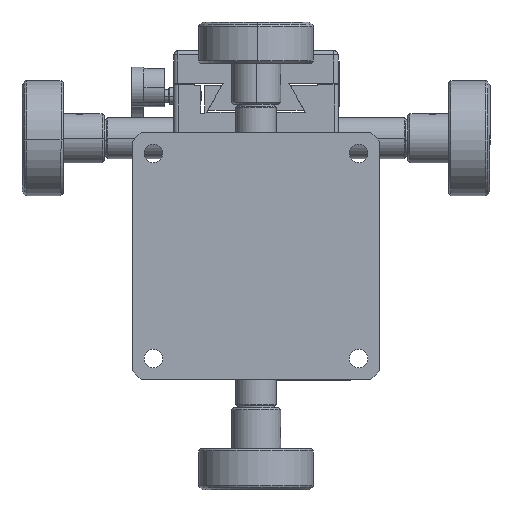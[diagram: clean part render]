
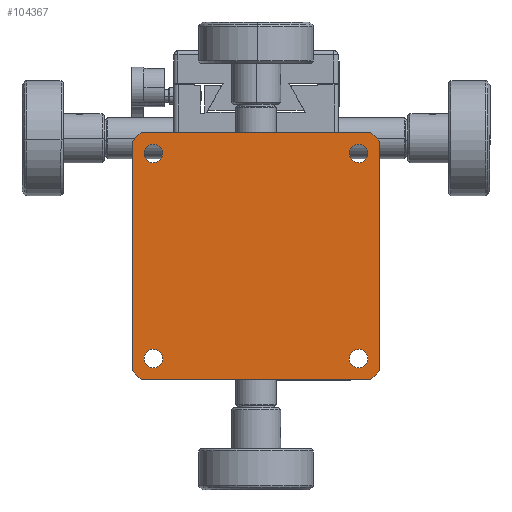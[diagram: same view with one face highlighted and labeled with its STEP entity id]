
A CAD part, front view. The second image highlights one B-rep face of the part: STEP entity #104367.
In plain terms, the highlighted planar face has unit normal (0, -1, 0).
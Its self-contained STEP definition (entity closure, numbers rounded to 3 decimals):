
#163 = DIRECTION ( 'NONE',  ( 0., 1., 0. ) ) ;
#919 = AXIS2_PLACEMENT_3D ( 'NONE', #51233, #163, #59906 ) ;
#935 = ORIENTED_EDGE ( 'NONE', *, *, #37879, .T. ) ;
#2135 = LINE ( 'NONE', #97273, #90288 ) ;
#3008 = DIRECTION ( 'NONE',  ( 0.707, 0., 0.707 ) ) ;
#3532 = CARTESIAN_POINT ( 'NONE',  ( 29., 0., -29. ) ) ;
#4208 = EDGE_CURVE ( 'NONE', #67962, #74689, #52172, .T. ) ;
#5631 = DIRECTION ( 'NONE',  ( -0.707, 0., 0.707 ) ) ;
#5916 = AXIS2_PLACEMENT_3D ( 'NONE', #42876, #102608, #51459 ) ;
#6997 = AXIS2_PLACEMENT_3D ( 'NONE', #108168, #108041, #107957 ) ;
#7044 = VECTOR ( 'NONE', #62277, 1000. ) ;
#7540 = CARTESIAN_POINT ( 'NONE',  ( -29., 0., 29. ) ) ;
#7647 = EDGE_LOOP ( 'NONE', ( #15284, #935, #34396, #81314, #90445, #25109, #71165, #50286 ) ) ;
#9665 = FACE_BOUND ( 'NONE', #95408, .T. ) ;
#10788 = CARTESIAN_POINT ( 'NONE',  ( -27.25, 0., 25. ) ) ;
#11664 = EDGE_CURVE ( 'NONE', #61776, #20361, #86517, .T. ) ;
#12185 = DIRECTION ( 'NONE',  ( -1., 0., 0. ) ) ;
#15284 = ORIENTED_EDGE ( 'NONE', *, *, #101529, .F. ) ;
#17087 = VERTEX_POINT ( 'NONE', #47851 ) ;
#19409 = EDGE_CURVE ( 'NONE', #27976, #88948, #96890, .T. ) ;
#19617 = VECTOR ( 'NONE', #5631, 1000. ) ;
#20280 = DIRECTION ( 'NONE',  ( 0., -1., 0. ) ) ;
#20361 = VERTEX_POINT ( 'NONE', #110678 ) ;
#22716 = ORIENTED_EDGE ( 'NONE', *, *, #104001, .T. ) ;
#23427 = LINE ( 'NONE', #106669, #88951 ) ;
#24159 = CIRCLE ( 'NONE', #26891, 2.25 ) ;
#24426 = EDGE_CURVE ( 'NONE', #17087, #33927, #92477, .T. ) ;
#25109 = ORIENTED_EDGE ( 'NONE', *, *, #27094, .T. ) ;
#25732 = CARTESIAN_POINT ( 'NONE',  ( -59., 0., 1. ) ) ;
#25953 = ORIENTED_EDGE ( 'NONE', *, *, #4208, .T. ) ;
#26619 = CARTESIAN_POINT ( 'NONE',  ( 25., 0., -25. ) ) ;
#26891 = AXIS2_PLACEMENT_3D ( 'NONE', #26619, #86351, #35225 ) ;
#27001 = VERTEX_POINT ( 'NONE', #31678 ) ;
#27094 = EDGE_CURVE ( 'NONE', #72090, #33927, #57544, .T. ) ;
#27976 = VERTEX_POINT ( 'NONE', #85954 ) ;
#29728 = FACE_OUTER_BOUND ( 'NONE', #7647, .T. ) ;
#30537 = CARTESIAN_POINT ( 'NONE',  ( -28., 0., 30. ) ) ;
#30581 = EDGE_CURVE ( 'NONE', #72090, #27001, #2135, .T. ) ;
#31678 = CARTESIAN_POINT ( 'NONE',  ( -28., 0., -30. ) ) ;
#31944 = VERTEX_POINT ( 'NONE', #65610 ) ;
#32102 = EDGE_CURVE ( 'NONE', #106396, #82262, #54175, .T. ) ;
#32618 = AXIS2_PLACEMENT_3D ( 'NONE', #88274, #37166, #96852 ) ;
#32949 = LINE ( 'NONE', #25732, #75673 ) ;
#33927 = VERTEX_POINT ( 'NONE', #69773 ) ;
#34396 = ORIENTED_EDGE ( 'NONE', *, *, #19409, .F. ) ;
#35179 = CARTESIAN_POINT ( 'NONE',  ( 28., 0., -30. ) ) ;
#35225 = DIRECTION ( 'NONE',  ( 1., 0., 0. ) ) ;
#36597 = CARTESIAN_POINT ( 'NONE',  ( 22.75, 0., -25. ) ) ;
#37166 = DIRECTION ( 'NONE',  ( 0., 1., 0. ) ) ;
#37879 = EDGE_CURVE ( 'NONE', #96157, #88948, #69248, .T. ) ;
#38718 = DIRECTION ( 'NONE',  ( 1., 0., 0. ) ) ;
#38731 = DIRECTION ( 'NONE',  ( 0., 1., 0. ) ) ;
#42876 = CARTESIAN_POINT ( 'NONE',  ( 25., 0., 25. ) ) ;
#46464 = CARTESIAN_POINT ( 'NONE',  ( -27.25, 0., -25. ) ) ;
#47851 = CARTESIAN_POINT ( 'NONE',  ( 30., 0., 28. ) ) ;
#48874 = VERTEX_POINT ( 'NONE', #36597 ) ;
#49074 = CARTESIAN_POINT ( 'NONE',  ( -25., 0., -25. ) ) ;
#49192 = VECTOR ( 'NONE', #59078, 1000. ) ;
#49646 = EDGE_CURVE ( 'NONE', #48874, #71609, #24159, .T. ) ;
#50286 = ORIENTED_EDGE ( 'NONE', *, *, #57624, .T. ) ;
#51233 = CARTESIAN_POINT ( 'NONE',  ( 25., 0., 25. ) ) ;
#51298 = EDGE_CURVE ( 'NONE', #20361, #61776, #78857, .T. ) ;
#51340 = CARTESIAN_POINT ( 'NONE',  ( 27.25, 0., -25. ) ) ;
#51459 = DIRECTION ( 'NONE',  ( 1., 0., 0. ) ) ;
#52172 = CIRCLE ( 'NONE', #58980, 2.25 ) ;
#52362 = FACE_BOUND ( 'NONE', #68663, .T. ) ;
#52791 = CARTESIAN_POINT ( 'NONE',  ( 27.25, 0., 25. ) ) ;
#53327 = EDGE_LOOP ( 'NONE', ( #22716, #91110 ) ) ;
#54175 = CIRCLE ( 'NONE', #919, 2.25 ) ;
#54286 = CARTESIAN_POINT ( 'NONE',  ( -30., 0., 30. ) ) ;
#55131 = FACE_BOUND ( 'NONE', #77727, .T. ) ;
#55680 = CARTESIAN_POINT ( 'NONE',  ( -30., 0., 30. ) ) ;
#57544 = LINE ( 'NONE', #3532, #77491 ) ;
#57624 = EDGE_CURVE ( 'NONE', #17087, #31944, #87752, .T. ) ;
#57684 = DIRECTION ( 'NONE',  ( 1., 0., 0. ) ) ;
#58529 = AXIS2_PLACEMENT_3D ( 'NONE', #49074, #108764, #57684 ) ;
#58740 = ORIENTED_EDGE ( 'NONE', *, *, #100068, .T. ) ;
#58980 = AXIS2_PLACEMENT_3D ( 'NONE', #86092, #87932, #88184 ) ;
#59078 = DIRECTION ( 'NONE',  ( -0.707, 0., -0.707 ) ) ;
#59577 = EDGE_CURVE ( 'NONE', #74689, #67962, #70272, .T. ) ;
#59906 = DIRECTION ( 'NONE',  ( 1., 0., 0. ) ) ;
#61152 = ORIENTED_EDGE ( 'NONE', *, *, #59577, .T. ) ;
#61776 = VERTEX_POINT ( 'NONE', #46464 ) ;
#62277 = DIRECTION ( 'NONE',  ( 0., 0., -1. ) ) ;
#62803 = CARTESIAN_POINT ( 'NONE',  ( 30., 0., 30. ) ) ;
#65610 = CARTESIAN_POINT ( 'NONE',  ( 28., 0., 30. ) ) ;
#67962 = VERTEX_POINT ( 'NONE', #10788 ) ;
#68202 = DIRECTION ( 'NONE',  ( 0., 0., 1. ) ) ;
#68663 = EDGE_LOOP ( 'NONE', ( #58740, #81925 ) ) ;
#69248 = LINE ( 'NONE', #7540, #49192 ) ;
#69773 = CARTESIAN_POINT ( 'NONE',  ( 30., 0., -28. ) ) ;
#70272 = CIRCLE ( 'NONE', #32618, 2.25 ) ;
#71165 = ORIENTED_EDGE ( 'NONE', *, *, #24426, .F. ) ;
#71497 = PLANE ( 'NONE',  #110469 ) ;
#71609 = VERTEX_POINT ( 'NONE', #51340 ) ;
#72090 = VERTEX_POINT ( 'NONE', #35179 ) ;
#72186 = CARTESIAN_POINT ( 'NONE',  ( -22.75, 0., 25. ) ) ;
#72374 = EDGE_CURVE ( 'NONE', #27976, #27001, #32949, .T. ) ;
#72603 = AXIS2_PLACEMENT_3D ( 'NONE', #89884, #38731, #98456 ) ;
#74689 = VERTEX_POINT ( 'NONE', #72186 ) ;
#75673 = VECTOR ( 'NONE', #94062, 1000. ) ;
#76484 = CIRCLE ( 'NONE', #72603, 2.25 ) ;
#77491 = VECTOR ( 'NONE', #3008, 1000. ) ;
#77727 = EDGE_LOOP ( 'NONE', ( #61152, #25953 ) ) ;
#78857 = CIRCLE ( 'NONE', #58529, 2.25 ) ;
#80055 = DIRECTION ( 'NONE',  ( -1., 0., 0. ) ) ;
#81314 = ORIENTED_EDGE ( 'NONE', *, *, #72374, .T. ) ;
#81925 = ORIENTED_EDGE ( 'NONE', *, *, #32102, .T. ) ;
#82262 = VERTEX_POINT ( 'NONE', #52791 ) ;
#84553 = CIRCLE ( 'NONE', #5916, 2.25 ) ;
#85954 = CARTESIAN_POINT ( 'NONE',  ( -30., 0., -28. ) ) ;
#86092 = CARTESIAN_POINT ( 'NONE',  ( -25., 0., 25. ) ) ;
#86351 = DIRECTION ( 'NONE',  ( 0., 1., 0. ) ) ;
#86517 = CIRCLE ( 'NONE', #6997, 2.25 ) ;
#87752 = LINE ( 'NONE', #107854, #19617 ) ;
#87932 = DIRECTION ( 'NONE',  ( 0., 1., 0. ) ) ;
#88184 = DIRECTION ( 'NONE',  ( 1., 0., 0. ) ) ;
#88274 = CARTESIAN_POINT ( 'NONE',  ( -25., 0., 25. ) ) ;
#88709 = ORIENTED_EDGE ( 'NONE', *, *, #51298, .T. ) ;
#88948 = VERTEX_POINT ( 'NONE', #97031 ) ;
#88951 = VECTOR ( 'NONE', #38718, 1000. ) ;
#89884 = CARTESIAN_POINT ( 'NONE',  ( 25., 0., -25. ) ) ;
#90288 = VECTOR ( 'NONE', #12185, 1000. ) ;
#90445 = ORIENTED_EDGE ( 'NONE', *, *, #30581, .F. ) ;
#91083 = ORIENTED_EDGE ( 'NONE', *, *, #11664, .T. ) ;
#91110 = ORIENTED_EDGE ( 'NONE', *, *, #49646, .T. ) ;
#92477 = LINE ( 'NONE', #62803, #7044 ) ;
#94062 = DIRECTION ( 'NONE',  ( 0.707, 0., -0.707 ) ) ;
#94181 = VECTOR ( 'NONE', #68202, 1000. ) ;
#95408 = EDGE_LOOP ( 'NONE', ( #88709, #91083 ) ) ;
#96157 = VERTEX_POINT ( 'NONE', #30537 ) ;
#96852 = DIRECTION ( 'NONE',  ( 1., 0., 0. ) ) ;
#96890 = LINE ( 'NONE', #55680, #94181 ) ;
#97031 = CARTESIAN_POINT ( 'NONE',  ( -30., 0., 28. ) ) ;
#97273 = CARTESIAN_POINT ( 'NONE',  ( 30., 0., -30. ) ) ;
#97837 = FACE_BOUND ( 'NONE', #53327, .T. ) ;
#98456 = DIRECTION ( 'NONE',  ( 1., 0., 0. ) ) ;
#98719 = CARTESIAN_POINT ( 'NONE',  ( 22.75, 0., 25. ) ) ;
#100068 = EDGE_CURVE ( 'NONE', #82262, #106396, #84553, .T. ) ;
#101529 = EDGE_CURVE ( 'NONE', #96157, #31944, #23427, .T. ) ;
#102608 = DIRECTION ( 'NONE',  ( 0., 1., 0. ) ) ;
#104001 = EDGE_CURVE ( 'NONE', #71609, #48874, #76484, .T. ) ;
#104367 = ADVANCED_FACE ( 'NONE', ( #52362, #55131, #9665, #97837, #29728 ), #71497, .T. ) ;
#106396 = VERTEX_POINT ( 'NONE', #98719 ) ;
#106669 = CARTESIAN_POINT ( 'NONE',  ( 30., 0., 30. ) ) ;
#107854 = CARTESIAN_POINT ( 'NONE',  ( -1., 0., 59. ) ) ;
#107957 = DIRECTION ( 'NONE',  ( 1., 0., 0. ) ) ;
#108041 = DIRECTION ( 'NONE',  ( 0., 1., 0. ) ) ;
#108168 = CARTESIAN_POINT ( 'NONE',  ( -25., 0., -25. ) ) ;
#108764 = DIRECTION ( 'NONE',  ( 0., 1., 0. ) ) ;
#110469 = AXIS2_PLACEMENT_3D ( 'NONE', #54286, #20280, #80055 ) ;
#110678 = CARTESIAN_POINT ( 'NONE',  ( -22.75, 0., -25. ) ) ;
